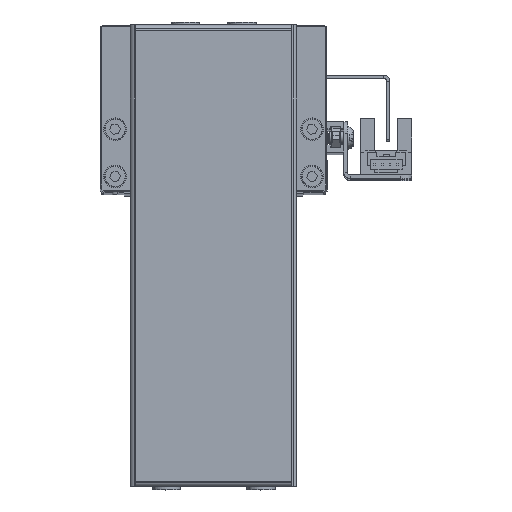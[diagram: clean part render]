
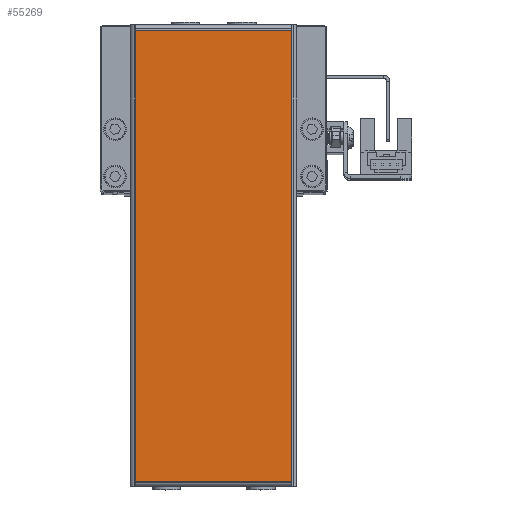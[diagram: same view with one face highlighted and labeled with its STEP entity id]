
A CAD part, top view. The second image highlights one B-rep face of the part: STEP entity #55269.
In plain terms, the highlighted planar face has unit normal (0, 0, 1) as drawn and (0, 0, -1) by its records, which use the part's own axes.
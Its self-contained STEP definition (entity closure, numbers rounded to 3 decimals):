
#1540 = CARTESIAN_POINT ( 'NONE',  ( 0., 0., -1. ) ) ;
#2270 = VECTOR ( 'NONE', #38156, 1000. ) ;
#2687 = VECTOR ( 'NONE', #50331, 1000. ) ;
#6765 = CARTESIAN_POINT ( 'NONE',  ( 120.5, 42.7, -1. ) ) ;
#7568 = ORIENTED_EDGE ( 'NONE', *, *, #11741, .T. ) ;
#8125 = CARTESIAN_POINT ( 'NONE',  ( 122., 1.3, -1. ) ) ;
#10438 = LINE ( 'NONE', #8125, #36739 ) ;
#10936 = DIRECTION ( 'NONE',  ( 0., 0., -1. ) ) ;
#11741 = EDGE_CURVE ( 'NONE', #15004, #43641, #52205, .T. ) ;
#13918 = VERTEX_POINT ( 'NONE', #45673 ) ;
#14883 = EDGE_LOOP ( 'NONE', ( #48685, #36436, #51352, #7568 ) ) ;
#15004 = VERTEX_POINT ( 'NONE', #28533 ) ;
#16744 = CARTESIAN_POINT ( 'NONE',  ( 120.5, 42.7, -1. ) ) ;
#17860 = VERTEX_POINT ( 'NONE', #6765 ) ;
#24628 = CARTESIAN_POINT ( 'NONE',  ( 1.5, 1.3, -1. ) ) ;
#26643 = EDGE_CURVE ( 'NONE', #13918, #15004, #10438, .T. ) ;
#26875 = AXIS2_PLACEMENT_3D ( 'NONE', #1540, #10936, #58175 ) ;
#28533 = CARTESIAN_POINT ( 'NONE',  ( 1.5, 1.3, -1. ) ) ;
#29462 = DIRECTION ( 'NONE',  ( 0., 1., 0. ) ) ;
#31828 = DIRECTION ( 'NONE',  ( -1., 0., 0. ) ) ;
#36436 = ORIENTED_EDGE ( 'NONE', *, *, #38876, .T. ) ;
#36739 = VECTOR ( 'NONE', #31828, 1000. ) ;
#38156 = DIRECTION ( 'NONE',  ( 1., 0., 0. ) ) ;
#38876 = EDGE_CURVE ( 'NONE', #17860, #13918, #40998, .T. ) ;
#39452 = VECTOR ( 'NONE', #29462, 1000. ) ;
#39755 = PLANE ( 'NONE',  #26875 ) ;
#40998 = LINE ( 'NONE', #16744, #2687 ) ;
#43641 = VERTEX_POINT ( 'NONE', #47625 ) ;
#45673 = CARTESIAN_POINT ( 'NONE',  ( 120.5, 1.3, -1. ) ) ;
#45798 = LINE ( 'NONE', #61825, #2270 ) ;
#47625 = CARTESIAN_POINT ( 'NONE',  ( 1.5, 42.7, -1. ) ) ;
#48685 = ORIENTED_EDGE ( 'NONE', *, *, #55856, .T. ) ;
#50331 = DIRECTION ( 'NONE',  ( 0., -1., 0. ) ) ;
#51152 = FACE_OUTER_BOUND ( 'NONE', #14883, .T. ) ;
#51352 = ORIENTED_EDGE ( 'NONE', *, *, #26643, .T. ) ;
#52205 = LINE ( 'NONE', #24628, #39452 ) ;
#55269 = ADVANCED_FACE ( 'NONE', ( #51152 ), #39755, .T. ) ;
#55856 = EDGE_CURVE ( 'NONE', #43641, #17860, #45798, .T. ) ;
#58175 = DIRECTION ( 'NONE',  ( -1., 0., 0. ) ) ;
#61825 = CARTESIAN_POINT ( 'NONE',  ( 0., 42.7, -1. ) ) ;
